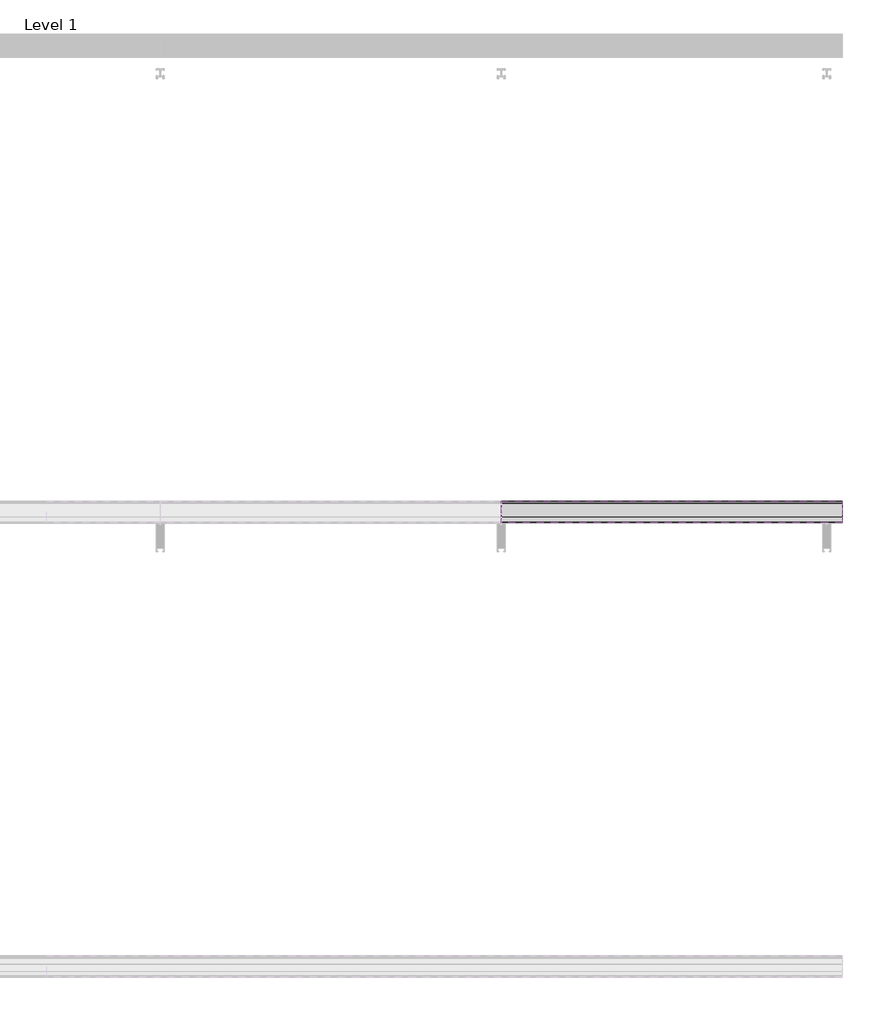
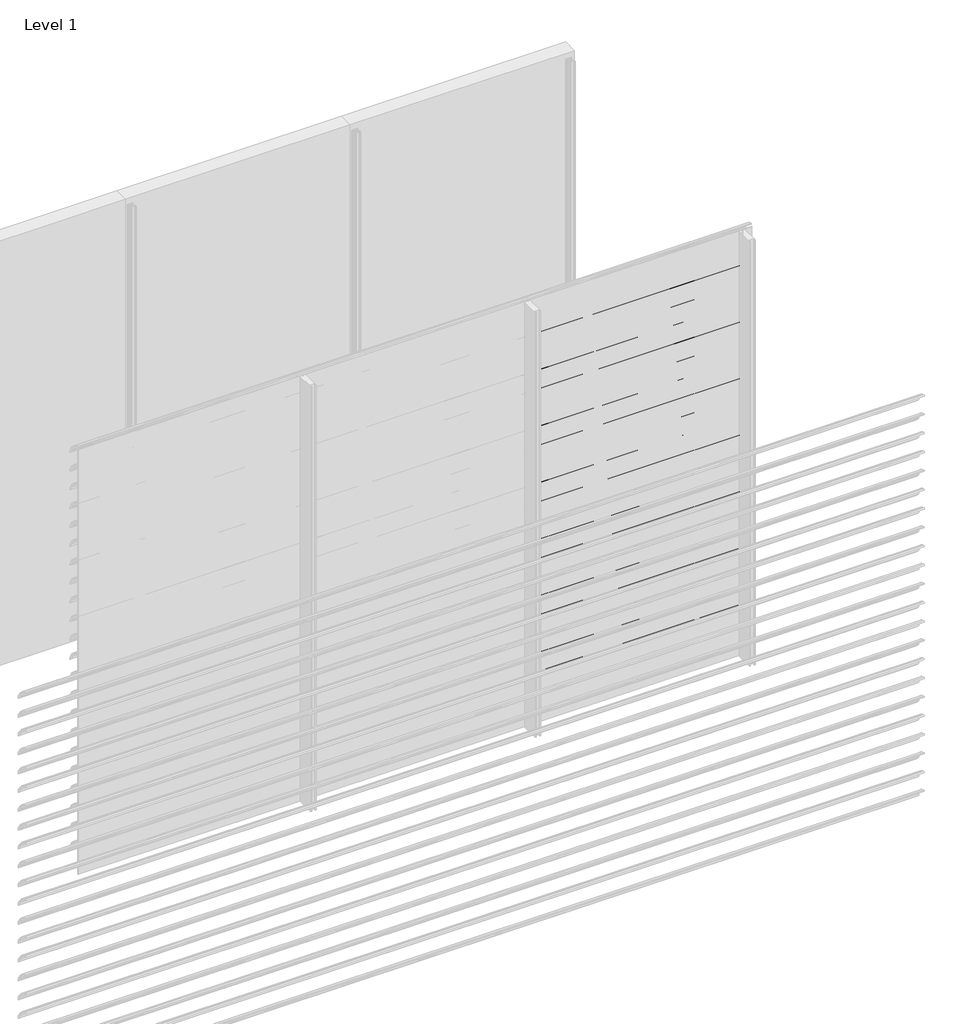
# One storey, part 13 of 57: 20 proxies.
"""IFC4 building model written with IfcOpenShell, lengths in millimetres."""

from ifc_helpers import new_model, si_unit, point, frame, frame_2d, origin, place, context, project, spatial, polyline, circle_curve, trimmed, segment, composite_curve, outline, extrude, element, save

model = new_model("IFC4")

# Units and contexts
model_context = context("Model", 3, world=origin())
ifc_project = project(units=[si_unit("LENGTHUNIT", "METRE", prefix="MILLI")], contexts=[model_context])

# Site, building, storey
site = spatial("IfcSite", under=ifc_project)
building = spatial("IfcBuilding", under=site)
storey = spatial("IfcBuildingStorey", under=building, Name="Level 1", Elevation=0.0)

# Proxies
placement = place(None, origin())
element("IfcBuildingElementProxy", 1, Name="Wall Sweeps", at=placement, inside=storey, context=model_context, shape_type="SweptSolid", body=[
    extrude(outline(composite_curve([segment(trimmed(circle_curve(frame_2d((-47993.7822526, 2750.4913792)), 4.2177474), [point((-47989.6985606, 2751.5462976))], [point((-47993.7822526, 2754.7091266))], False, "CARTESIAN"), True, "CONTINUOUS"), segment(trimmed(circle_curve(frame_2d((-48018.7150834, 2652.2536312)), 105.4456002), [point((-47993.7822526, 2754.7091266))], [point((-47971.7914298, 2746.6832099))], False, "CARTESIAN"), True, "CONTINUOUS"), segment(trimmed(circle_curve(frame_2d((-48061.7199745, 2598.0352476)), 173.7335887), [point((-47971.7914298, 2746.6832099))], [point((-47913.0720121, 2687.9637922))], False, "CARTESIAN"), True, "CONTINUOUS"), segment(trimmed(circle_curve(frame_2d((-48004.9297178, 2636.1860314)), 105.4456002), [point((-47913.0720121, 2687.9637922))], [point((-47903.6249616, 2665.4455765))], False, "CARTESIAN"), True, "CONTINUOUS"), segment(trimmed(circle_curve(frame_2d((-47907.809737, 2664.3307305)), 4.3307305), [point((-47903.6249616, 2665.4455765))], [point((-47909.0769196, 2660.189538))], False, "CARTESIAN"), True, "CONTINUOUS"), segment(polyline([(-47909.0769196, 2660.189538), (-47934.7401984, 2684.9722783)]), True, "CONTINUOUS"), segment(trimmed(circle_curve(frame_2d((-47931.3879574, 2687.2977626)), 4.079877), [point((-47934.7401984, 2684.9722783))], [point((-47930.7310597, 2691.3244091))], False, "CARTESIAN"), True, "CONTINUOUS"), segment(trimmed(circle_curve(frame_2d((-48014.6665585, 2669.2544323)), 86.7885467), [point((-47930.7310597, 2691.3244091))], [point((-47942.3028351, 2717.1683485))], True, "CARTESIAN"), True, "CONTINUOUS"), segment(polyline([(-47942.3028351, 2717.1683485), (-47940.7230099, 2719.9046861)]), True, "CONTINUOUS"), segment(trimmed(circle_curve(frame_2d((-48061.7199745, 2598.0352476)), 171.7335887), [point((-47940.7230099, 2719.9046861))], [point((-47972.7555872, 2744.9289618))], True, "CARTESIAN"), True, "CONTINUOUS"), segment(trimmed(circle_curve(frame_2d((-48018.7150834, 2652.2536312)), 103.4456002), [point((-47972.7555872, 2744.9289618))], [point((-47989.6985606, 2751.5462976))], True, "CARTESIAN"), True, "CONTINUOUS")], self_intersect=False)), frame((4500.0, 0.0, 0.0), z_axis=(1.0, 0.0, 0.0), x_axis=(0.0, 1.0, 0.0)), (0.0, 0.0, 1.0), 1500.0),
])
element("IfcBuildingElementProxy", 2, Name="Wall Sweeps", at=placement, inside=storey, context=model_context, shape_type="SweptSolid", body=[
    extrude(outline(composite_curve([segment(trimmed(circle_curve(frame_2d((-47993.7822526, 2617.4913792)), 4.2177474), [point((-47989.6985606, 2618.5462976))], [point((-47993.7822526, 2621.7091266))], False, "CARTESIAN"), True, "CONTINUOUS"), segment(trimmed(circle_curve(frame_2d((-48018.7150834, 2519.2536312)), 105.4456002), [point((-47993.7822526, 2621.7091266))], [point((-47971.7914298, 2613.6832099))], False, "CARTESIAN"), True, "CONTINUOUS"), segment(trimmed(circle_curve(frame_2d((-48061.7199745, 2465.0352476)), 173.7335887), [point((-47971.7914298, 2613.6832099))], [point((-47913.0720121, 2554.9637922))], False, "CARTESIAN"), True, "CONTINUOUS"), segment(trimmed(circle_curve(frame_2d((-48004.9297178, 2503.1860314)), 105.4456002), [point((-47913.0720121, 2554.9637922))], [point((-47903.6249616, 2532.4455765))], False, "CARTESIAN"), True, "CONTINUOUS"), segment(trimmed(circle_curve(frame_2d((-47907.809737, 2531.3307305)), 4.3307305), [point((-47903.6249616, 2532.4455765))], [point((-47909.0769196, 2527.189538))], False, "CARTESIAN"), True, "CONTINUOUS"), segment(polyline([(-47909.0769196, 2527.189538), (-47934.7401984, 2551.9722783)]), True, "CONTINUOUS"), segment(trimmed(circle_curve(frame_2d((-47931.3879574, 2554.2977626)), 4.079877), [point((-47934.7401984, 2551.9722783))], [point((-47930.7310597, 2558.3244091))], False, "CARTESIAN"), True, "CONTINUOUS"), segment(trimmed(circle_curve(frame_2d((-48014.6665585, 2536.2544323)), 86.7885467), [point((-47930.7310597, 2558.3244091))], [point((-47942.3028351, 2584.1683485))], True, "CARTESIAN"), True, "CONTINUOUS"), segment(polyline([(-47942.3028351, 2584.1683485), (-47940.7230099, 2586.9046861)]), True, "CONTINUOUS"), segment(trimmed(circle_curve(frame_2d((-48061.7199745, 2465.0352476)), 171.7335887), [point((-47940.7230099, 2586.9046861))], [point((-47972.7555872, 2611.9289618))], True, "CARTESIAN"), True, "CONTINUOUS"), segment(trimmed(circle_curve(frame_2d((-48018.7150834, 2519.2536312)), 103.4456002), [point((-47972.7555872, 2611.9289618))], [point((-47989.6985606, 2618.5462976))], True, "CARTESIAN"), True, "CONTINUOUS")], self_intersect=False)), frame((4500.0, 0.0, 0.0), z_axis=(1.0, 0.0, 0.0), x_axis=(0.0, 1.0, 0.0)), (0.0, 0.0, 1.0), 1500.0),
])
element("IfcBuildingElementProxy", 3, Name="Wall Sweeps", at=placement, inside=storey, context=model_context, shape_type="SweptSolid", body=[
    extrude(outline(composite_curve([segment(trimmed(circle_curve(frame_2d((-47993.7822526, 2484.4913792)), 4.2177474), [point((-47989.6985606, 2485.5462976))], [point((-47993.7822526, 2488.7091266))], False, "CARTESIAN"), True, "CONTINUOUS"), segment(trimmed(circle_curve(frame_2d((-48018.7150834, 2386.2536312)), 105.4456002), [point((-47993.7822526, 2488.7091266))], [point((-47971.7914298, 2480.6832099))], False, "CARTESIAN"), True, "CONTINUOUS"), segment(trimmed(circle_curve(frame_2d((-48061.7199745, 2332.0352476)), 173.7335887), [point((-47971.7914298, 2480.6832099))], [point((-47913.0720121, 2421.9637922))], False, "CARTESIAN"), True, "CONTINUOUS"), segment(trimmed(circle_curve(frame_2d((-48004.9297178, 2370.1860314)), 105.4456002), [point((-47913.0720121, 2421.9637922))], [point((-47903.6249616, 2399.4455765))], False, "CARTESIAN"), True, "CONTINUOUS"), segment(trimmed(circle_curve(frame_2d((-47907.809737, 2398.3307305)), 4.3307305), [point((-47903.6249616, 2399.4455765))], [point((-47909.0769196, 2394.189538))], False, "CARTESIAN"), True, "CONTINUOUS"), segment(polyline([(-47909.0769196, 2394.189538), (-47934.7401984, 2418.9722783)]), True, "CONTINUOUS"), segment(trimmed(circle_curve(frame_2d((-47931.3879574, 2421.2977626)), 4.079877), [point((-47934.7401984, 2418.9722783))], [point((-47930.7310597, 2425.3244091))], False, "CARTESIAN"), True, "CONTINUOUS"), segment(trimmed(circle_curve(frame_2d((-48014.6665585, 2403.2544323)), 86.7885467), [point((-47930.7310597, 2425.3244091))], [point((-47942.3028351, 2451.1683485))], True, "CARTESIAN"), True, "CONTINUOUS"), segment(polyline([(-47942.3028351, 2451.1683485), (-47940.7230099, 2453.9046861)]), True, "CONTINUOUS"), segment(trimmed(circle_curve(frame_2d((-48061.7199745, 2332.0352476)), 171.7335887), [point((-47940.7230099, 2453.9046861))], [point((-47972.7555872, 2478.9289618))], True, "CARTESIAN"), True, "CONTINUOUS"), segment(trimmed(circle_curve(frame_2d((-48018.7150834, 2386.2536312)), 103.4456002), [point((-47972.7555872, 2478.9289618))], [point((-47989.6985606, 2485.5462976))], True, "CARTESIAN"), True, "CONTINUOUS")], self_intersect=False)), frame((4500.0, 0.0, 0.0), z_axis=(1.0, 0.0, 0.0), x_axis=(0.0, 1.0, 0.0)), (0.0, 0.0, 1.0), 1500.0),
])
element("IfcBuildingElementProxy", 4, Name="Wall Sweeps", at=placement, inside=storey, context=model_context, shape_type="SweptSolid", body=[
    extrude(outline(composite_curve([segment(trimmed(circle_curve(frame_2d((-47993.7822526, 2351.4913792)), 4.2177474), [point((-47989.6985606, 2352.5462976))], [point((-47993.7822526, 2355.7091266))], False, "CARTESIAN"), True, "CONTINUOUS"), segment(trimmed(circle_curve(frame_2d((-48018.7150834, 2253.2536312)), 105.4456002), [point((-47993.7822526, 2355.7091266))], [point((-47971.7914298, 2347.6832099))], False, "CARTESIAN"), True, "CONTINUOUS"), segment(trimmed(circle_curve(frame_2d((-48061.7199745, 2199.0352476)), 173.7335887), [point((-47971.7914298, 2347.6832099))], [point((-47913.0720121, 2288.9637922))], False, "CARTESIAN"), True, "CONTINUOUS"), segment(trimmed(circle_curve(frame_2d((-48004.9297178, 2237.1860314)), 105.4456002), [point((-47913.0720121, 2288.9637922))], [point((-47903.6249616, 2266.4455765))], False, "CARTESIAN"), True, "CONTINUOUS"), segment(trimmed(circle_curve(frame_2d((-47907.809737, 2265.3307305)), 4.3307305), [point((-47903.6249616, 2266.4455765))], [point((-47909.0769196, 2261.189538))], False, "CARTESIAN"), True, "CONTINUOUS"), segment(polyline([(-47909.0769196, 2261.189538), (-47934.7401984, 2285.9722783)]), True, "CONTINUOUS"), segment(trimmed(circle_curve(frame_2d((-47931.3879574, 2288.2977626)), 4.079877), [point((-47934.7401984, 2285.9722783))], [point((-47930.7310597, 2292.3244091))], False, "CARTESIAN"), True, "CONTINUOUS"), segment(trimmed(circle_curve(frame_2d((-48014.6665585, 2270.2544323)), 86.7885467), [point((-47930.7310597, 2292.3244091))], [point((-47942.3028351, 2318.1683485))], True, "CARTESIAN"), True, "CONTINUOUS"), segment(polyline([(-47942.3028351, 2318.1683485), (-47940.7230099, 2320.9046861)]), True, "CONTINUOUS"), segment(trimmed(circle_curve(frame_2d((-48061.7199745, 2199.0352476)), 171.7335887), [point((-47940.7230099, 2320.9046861))], [point((-47972.7555872, 2345.9289618))], True, "CARTESIAN"), True, "CONTINUOUS"), segment(trimmed(circle_curve(frame_2d((-48018.7150834, 2253.2536312)), 103.4456002), [point((-47972.7555872, 2345.9289618))], [point((-47989.6985606, 2352.5462976))], True, "CARTESIAN"), True, "CONTINUOUS")], self_intersect=False)), frame((4500.0, 0.0, 0.0), z_axis=(1.0, 0.0, 0.0), x_axis=(0.0, 1.0, 0.0)), (0.0, 0.0, 1.0), 1500.0),
])
element("IfcBuildingElementProxy", 5, Name="Wall Sweeps", at=placement, inside=storey, context=model_context, shape_type="SweptSolid", body=[
    extrude(outline(composite_curve([segment(trimmed(circle_curve(frame_2d((-47993.7822526, 2218.4913792)), 4.2177474), [point((-47989.6985606, 2219.5462976))], [point((-47993.7822526, 2222.7091266))], False, "CARTESIAN"), True, "CONTINUOUS"), segment(trimmed(circle_curve(frame_2d((-48018.7150834, 2120.2536312)), 105.4456002), [point((-47993.7822526, 2222.7091266))], [point((-47971.7914298, 2214.6832099))], False, "CARTESIAN"), True, "CONTINUOUS"), segment(trimmed(circle_curve(frame_2d((-48061.7199745, 2066.0352476)), 173.7335887), [point((-47971.7914298, 2214.6832099))], [point((-47913.0720121, 2155.9637922))], False, "CARTESIAN"), True, "CONTINUOUS"), segment(trimmed(circle_curve(frame_2d((-48004.9297178, 2104.1860314)), 105.4456002), [point((-47913.0720121, 2155.9637922))], [point((-47903.6249616, 2133.4455765))], False, "CARTESIAN"), True, "CONTINUOUS"), segment(trimmed(circle_curve(frame_2d((-47907.809737, 2132.3307305)), 4.3307305), [point((-47903.6249616, 2133.4455765))], [point((-47909.0769196, 2128.189538))], False, "CARTESIAN"), True, "CONTINUOUS"), segment(polyline([(-47909.0769196, 2128.189538), (-47934.7401984, 2152.9722783)]), True, "CONTINUOUS"), segment(trimmed(circle_curve(frame_2d((-47931.3879574, 2155.2977626)), 4.079877), [point((-47934.7401984, 2152.9722783))], [point((-47930.7310597, 2159.3244091))], False, "CARTESIAN"), True, "CONTINUOUS"), segment(trimmed(circle_curve(frame_2d((-48014.6665585, 2137.2544323)), 86.7885467), [point((-47930.7310597, 2159.3244091))], [point((-47942.3028351, 2185.1683485))], True, "CARTESIAN"), True, "CONTINUOUS"), segment(polyline([(-47942.3028351, 2185.1683485), (-47940.7230099, 2187.9046861)]), True, "CONTINUOUS"), segment(trimmed(circle_curve(frame_2d((-48061.7199745, 2066.0352476)), 171.7335887), [point((-47940.7230099, 2187.9046861))], [point((-47972.7555872, 2212.9289618))], True, "CARTESIAN"), True, "CONTINUOUS"), segment(trimmed(circle_curve(frame_2d((-48018.7150834, 2120.2536312)), 103.4456002), [point((-47972.7555872, 2212.9289618))], [point((-47989.6985606, 2219.5462976))], True, "CARTESIAN"), True, "CONTINUOUS")], self_intersect=False)), frame((4500.0, 0.0, 0.0), z_axis=(1.0, 0.0, 0.0), x_axis=(0.0, 1.0, 0.0)), (0.0, 0.0, 1.0), 1500.0),
])
element("IfcBuildingElementProxy", 6, Name="Wall Sweeps", at=placement, inside=storey, context=model_context, shape_type="SweptSolid", body=[
    extrude(outline(composite_curve([segment(trimmed(circle_curve(frame_2d((-47993.7822526, 2085.4913792)), 4.2177474), [point((-47989.6985606, 2086.5462976))], [point((-47993.7822526, 2089.7091266))], False, "CARTESIAN"), True, "CONTINUOUS"), segment(trimmed(circle_curve(frame_2d((-48018.7150834, 1987.2536312)), 105.4456002), [point((-47993.7822526, 2089.7091266))], [point((-47971.7914298, 2081.6832099))], False, "CARTESIAN"), True, "CONTINUOUS"), segment(trimmed(circle_curve(frame_2d((-48061.7199745, 1933.0352476)), 173.7335887), [point((-47971.7914298, 2081.6832099))], [point((-47913.0720121, 2022.9637922))], False, "CARTESIAN"), True, "CONTINUOUS"), segment(trimmed(circle_curve(frame_2d((-48004.9297178, 1971.1860314)), 105.4456002), [point((-47913.0720121, 2022.9637922))], [point((-47903.6249616, 2000.4455765))], False, "CARTESIAN"), True, "CONTINUOUS"), segment(trimmed(circle_curve(frame_2d((-47907.809737, 1999.3307305)), 4.3307305), [point((-47903.6249616, 2000.4455765))], [point((-47909.0769196, 1995.189538))], False, "CARTESIAN"), True, "CONTINUOUS"), segment(polyline([(-47909.0769196, 1995.189538), (-47934.7401984, 2019.9722783)]), True, "CONTINUOUS"), segment(trimmed(circle_curve(frame_2d((-47931.3879574, 2022.2977626)), 4.079877), [point((-47934.7401984, 2019.9722783))], [point((-47930.7310597, 2026.3244091))], False, "CARTESIAN"), True, "CONTINUOUS"), segment(trimmed(circle_curve(frame_2d((-48014.6665585, 2004.2544323)), 86.7885467), [point((-47930.7310597, 2026.3244091))], [point((-47942.3028351, 2052.1683485))], True, "CARTESIAN"), True, "CONTINUOUS"), segment(polyline([(-47942.3028351, 2052.1683485), (-47940.7230099, 2054.9046861)]), True, "CONTINUOUS"), segment(trimmed(circle_curve(frame_2d((-48061.7199745, 1933.0352476)), 171.7335887), [point((-47940.7230099, 2054.9046861))], [point((-47972.7555872, 2079.9289618))], True, "CARTESIAN"), True, "CONTINUOUS"), segment(trimmed(circle_curve(frame_2d((-48018.7150834, 1987.2536312)), 103.4456002), [point((-47972.7555872, 2079.9289618))], [point((-47989.6985606, 2086.5462976))], True, "CARTESIAN"), True, "CONTINUOUS")], self_intersect=False)), frame((4500.0, 0.0, 0.0), z_axis=(1.0, 0.0, 0.0), x_axis=(0.0, 1.0, 0.0)), (0.0, 0.0, 1.0), 1500.0),
])
element("IfcBuildingElementProxy", 7, Name="Wall Sweeps", at=placement, inside=storey, context=model_context, shape_type="SweptSolid", body=[
    extrude(outline(composite_curve([segment(trimmed(circle_curve(frame_2d((-47993.7822526, 1952.4913792)), 4.2177474), [point((-47989.6985606, 1953.5462976))], [point((-47993.7822526, 1956.7091266))], False, "CARTESIAN"), True, "CONTINUOUS"), segment(trimmed(circle_curve(frame_2d((-48018.7150834, 1854.2536312)), 105.4456002), [point((-47993.7822526, 1956.7091266))], [point((-47971.7914298, 1948.6832099))], False, "CARTESIAN"), True, "CONTINUOUS"), segment(trimmed(circle_curve(frame_2d((-48061.7199745, 1800.0352476)), 173.7335887), [point((-47971.7914298, 1948.6832099))], [point((-47913.0720121, 1889.9637922))], False, "CARTESIAN"), True, "CONTINUOUS"), segment(trimmed(circle_curve(frame_2d((-48004.9297178, 1838.1860314)), 105.4456002), [point((-47913.0720121, 1889.9637922))], [point((-47903.6249616, 1867.4455765))], False, "CARTESIAN"), True, "CONTINUOUS"), segment(trimmed(circle_curve(frame_2d((-47907.809737, 1866.3307305)), 4.3307305), [point((-47903.6249616, 1867.4455765))], [point((-47909.0769196, 1862.189538))], False, "CARTESIAN"), True, "CONTINUOUS"), segment(polyline([(-47909.0769196, 1862.189538), (-47934.7401984, 1886.9722783)]), True, "CONTINUOUS"), segment(trimmed(circle_curve(frame_2d((-47931.3879574, 1889.2977626)), 4.079877), [point((-47934.7401984, 1886.9722783))], [point((-47930.7310597, 1893.3244091))], False, "CARTESIAN"), True, "CONTINUOUS"), segment(trimmed(circle_curve(frame_2d((-48014.6665585, 1871.2544323)), 86.7885467), [point((-47930.7310597, 1893.3244091))], [point((-47942.3028351, 1919.1683485))], True, "CARTESIAN"), True, "CONTINUOUS"), segment(polyline([(-47942.3028351, 1919.1683485), (-47940.7230099, 1921.9046861)]), True, "CONTINUOUS"), segment(trimmed(circle_curve(frame_2d((-48061.7199745, 1800.0352476)), 171.7335887), [point((-47940.7230099, 1921.9046861))], [point((-47972.7555872, 1946.9289618))], True, "CARTESIAN"), True, "CONTINUOUS"), segment(trimmed(circle_curve(frame_2d((-48018.7150834, 1854.2536312)), 103.4456002), [point((-47972.7555872, 1946.9289618))], [point((-47989.6985606, 1953.5462976))], True, "CARTESIAN"), True, "CONTINUOUS")], self_intersect=False)), frame((4500.0, 0.0, 0.0), z_axis=(1.0, 0.0, 0.0), x_axis=(0.0, 1.0, 0.0)), (0.0, 0.0, 1.0), 1500.0),
])
element("IfcBuildingElementProxy", 8, Name="Wall Sweeps", at=placement, inside=storey, context=model_context, shape_type="SweptSolid", body=[
    extrude(outline(composite_curve([segment(trimmed(circle_curve(frame_2d((-47993.7822526, 1819.4913792)), 4.2177474), [point((-47989.6985606, 1820.5462976))], [point((-47993.7822526, 1823.7091266))], False, "CARTESIAN"), True, "CONTINUOUS"), segment(trimmed(circle_curve(frame_2d((-48018.7150834, 1721.2536312)), 105.4456002), [point((-47993.7822526, 1823.7091266))], [point((-47971.7914298, 1815.6832099))], False, "CARTESIAN"), True, "CONTINUOUS"), segment(trimmed(circle_curve(frame_2d((-48061.7199745, 1667.0352476)), 173.7335887), [point((-47971.7914298, 1815.6832099))], [point((-47913.0720121, 1756.9637922))], False, "CARTESIAN"), True, "CONTINUOUS"), segment(trimmed(circle_curve(frame_2d((-48004.9297178, 1705.1860314)), 105.4456002), [point((-47913.0720121, 1756.9637922))], [point((-47903.6249616, 1734.4455765))], False, "CARTESIAN"), True, "CONTINUOUS"), segment(trimmed(circle_curve(frame_2d((-47907.809737, 1733.3307305)), 4.3307305), [point((-47903.6249616, 1734.4455765))], [point((-47909.0769196, 1729.189538))], False, "CARTESIAN"), True, "CONTINUOUS"), segment(polyline([(-47909.0769196, 1729.189538), (-47934.7401984, 1753.9722783)]), True, "CONTINUOUS"), segment(trimmed(circle_curve(frame_2d((-47931.3879574, 1756.2977626)), 4.079877), [point((-47934.7401984, 1753.9722783))], [point((-47930.7310597, 1760.3244091))], False, "CARTESIAN"), True, "CONTINUOUS"), segment(trimmed(circle_curve(frame_2d((-48014.6665585, 1738.2544323)), 86.7885467), [point((-47930.7310597, 1760.3244091))], [point((-47942.3028351, 1786.1683485))], True, "CARTESIAN"), True, "CONTINUOUS"), segment(polyline([(-47942.3028351, 1786.1683485), (-47940.7230099, 1788.9046861)]), True, "CONTINUOUS"), segment(trimmed(circle_curve(frame_2d((-48061.7199745, 1667.0352476)), 171.7335887), [point((-47940.7230099, 1788.9046861))], [point((-47972.7555872, 1813.9289618))], True, "CARTESIAN"), True, "CONTINUOUS"), segment(trimmed(circle_curve(frame_2d((-48018.7150834, 1721.2536312)), 103.4456002), [point((-47972.7555872, 1813.9289618))], [point((-47989.6985606, 1820.5462976))], True, "CARTESIAN"), True, "CONTINUOUS")], self_intersect=False)), frame((4500.0, 0.0, 0.0), z_axis=(1.0, 0.0, 0.0), x_axis=(0.0, 1.0, 0.0)), (0.0, 0.0, 1.0), 1500.0),
])
element("IfcBuildingElementProxy", 9, Name="Wall Sweeps", at=placement, inside=storey, context=model_context, shape_type="SweptSolid", body=[
    extrude(outline(composite_curve([segment(trimmed(circle_curve(frame_2d((-47993.7822526, 1686.4913792)), 4.2177474), [point((-47989.6985606, 1687.5462976))], [point((-47993.7822526, 1690.7091266))], False, "CARTESIAN"), True, "CONTINUOUS"), segment(trimmed(circle_curve(frame_2d((-48018.7150834, 1588.2536312)), 105.4456002), [point((-47993.7822526, 1690.7091266))], [point((-47971.7914298, 1682.6832099))], False, "CARTESIAN"), True, "CONTINUOUS"), segment(trimmed(circle_curve(frame_2d((-48061.7199745, 1534.0352476)), 173.7335887), [point((-47971.7914298, 1682.6832099))], [point((-47913.0720121, 1623.9637922))], False, "CARTESIAN"), True, "CONTINUOUS"), segment(trimmed(circle_curve(frame_2d((-48004.9297178, 1572.1860314)), 105.4456002), [point((-47913.0720121, 1623.9637922))], [point((-47903.6249616, 1601.4455765))], False, "CARTESIAN"), True, "CONTINUOUS"), segment(trimmed(circle_curve(frame_2d((-47907.809737, 1600.3307305)), 4.3307305), [point((-47903.6249616, 1601.4455765))], [point((-47909.0769196, 1596.189538))], False, "CARTESIAN"), True, "CONTINUOUS"), segment(polyline([(-47909.0769196, 1596.189538), (-47934.7401984, 1620.9722783)]), True, "CONTINUOUS"), segment(trimmed(circle_curve(frame_2d((-47931.3879574, 1623.2977626)), 4.079877), [point((-47934.7401984, 1620.9722783))], [point((-47930.7310597, 1627.3244091))], False, "CARTESIAN"), True, "CONTINUOUS"), segment(trimmed(circle_curve(frame_2d((-48014.6665585, 1605.2544323)), 86.7885467), [point((-47930.7310597, 1627.3244091))], [point((-47942.3028351, 1653.1683485))], True, "CARTESIAN"), True, "CONTINUOUS"), segment(polyline([(-47942.3028351, 1653.1683485), (-47940.7230099, 1655.9046861)]), True, "CONTINUOUS"), segment(trimmed(circle_curve(frame_2d((-48061.7199745, 1534.0352476)), 171.7335887), [point((-47940.7230099, 1655.9046861))], [point((-47972.7555872, 1680.9289618))], True, "CARTESIAN"), True, "CONTINUOUS"), segment(trimmed(circle_curve(frame_2d((-48018.7150834, 1588.2536312)), 103.4456002), [point((-47972.7555872, 1680.9289618))], [point((-47989.6985606, 1687.5462976))], True, "CARTESIAN"), True, "CONTINUOUS")], self_intersect=False)), frame((4500.0, 0.0, 0.0), z_axis=(1.0, 0.0, 0.0), x_axis=(0.0, 1.0, 0.0)), (0.0, 0.0, 1.0), 1500.0),
])
element("IfcBuildingElementProxy", 10, Name="Wall Sweeps", at=placement, inside=storey, context=model_context, shape_type="SweptSolid", body=[
    extrude(outline(composite_curve([segment(trimmed(circle_curve(frame_2d((-47993.7822526, 1553.4913792)), 4.2177474), [point((-47989.6985606, 1554.5462976))], [point((-47993.7822526, 1557.7091266))], False, "CARTESIAN"), True, "CONTINUOUS"), segment(trimmed(circle_curve(frame_2d((-48018.7150834, 1455.2536312)), 105.4456002), [point((-47993.7822526, 1557.7091266))], [point((-47971.7914298, 1549.6832099))], False, "CARTESIAN"), True, "CONTINUOUS"), segment(trimmed(circle_curve(frame_2d((-48061.7199745, 1401.0352476)), 173.7335887), [point((-47971.7914298, 1549.6832099))], [point((-47913.0720121, 1490.9637922))], False, "CARTESIAN"), True, "CONTINUOUS"), segment(trimmed(circle_curve(frame_2d((-48004.9297178, 1439.1860314)), 105.4456002), [point((-47913.0720121, 1490.9637922))], [point((-47903.6249616, 1468.4455765))], False, "CARTESIAN"), True, "CONTINUOUS"), segment(trimmed(circle_curve(frame_2d((-47907.809737, 1467.3307305)), 4.3307305), [point((-47903.6249616, 1468.4455765))], [point((-47909.0769196, 1463.189538))], False, "CARTESIAN"), True, "CONTINUOUS"), segment(polyline([(-47909.0769196, 1463.189538), (-47934.7401984, 1487.9722783)]), True, "CONTINUOUS"), segment(trimmed(circle_curve(frame_2d((-47931.3879574, 1490.2977626)), 4.079877), [point((-47934.7401984, 1487.9722783))], [point((-47930.7310597, 1494.3244091))], False, "CARTESIAN"), True, "CONTINUOUS"), segment(trimmed(circle_curve(frame_2d((-48014.6665585, 1472.2544323)), 86.7885467), [point((-47930.7310597, 1494.3244091))], [point((-47942.3028351, 1520.1683485))], True, "CARTESIAN"), True, "CONTINUOUS"), segment(polyline([(-47942.3028351, 1520.1683485), (-47940.7230099, 1522.9046861)]), True, "CONTINUOUS"), segment(trimmed(circle_curve(frame_2d((-48061.7199745, 1401.0352476)), 171.7335887), [point((-47940.7230099, 1522.9046861))], [point((-47972.7555872, 1547.9289618))], True, "CARTESIAN"), True, "CONTINUOUS"), segment(trimmed(circle_curve(frame_2d((-48018.7150834, 1455.2536312)), 103.4456002), [point((-47972.7555872, 1547.9289618))], [point((-47989.6985606, 1554.5462976))], True, "CARTESIAN"), True, "CONTINUOUS")], self_intersect=False)), frame((4500.0, 0.0, 0.0), z_axis=(1.0, 0.0, 0.0), x_axis=(0.0, 1.0, 0.0)), (0.0, 0.0, 1.0), 1500.0),
])
element("IfcBuildingElementProxy", 11, Name="Wall Sweeps", at=placement, inside=storey, context=model_context, shape_type="SweptSolid", body=[
    extrude(outline(composite_curve([segment(trimmed(circle_curve(frame_2d((-47993.7822526, 1420.4913792)), 4.2177474), [point((-47989.6985606, 1421.5462976))], [point((-47993.7822526, 1424.7091266))], False, "CARTESIAN"), True, "CONTINUOUS"), segment(trimmed(circle_curve(frame_2d((-48018.7150834, 1322.2536312)), 105.4456002), [point((-47993.7822526, 1424.7091266))], [point((-47971.7914298, 1416.6832099))], False, "CARTESIAN"), True, "CONTINUOUS"), segment(trimmed(circle_curve(frame_2d((-48061.7199745, 1268.0352476)), 173.7335887), [point((-47971.7914298, 1416.6832099))], [point((-47913.0720121, 1357.9637922))], False, "CARTESIAN"), True, "CONTINUOUS"), segment(trimmed(circle_curve(frame_2d((-48004.9297178, 1306.1860314)), 105.4456002), [point((-47913.0720121, 1357.9637922))], [point((-47903.6249616, 1335.4455765))], False, "CARTESIAN"), True, "CONTINUOUS"), segment(trimmed(circle_curve(frame_2d((-47907.809737, 1334.3307305)), 4.3307305), [point((-47903.6249616, 1335.4455765))], [point((-47909.0769196, 1330.189538))], False, "CARTESIAN"), True, "CONTINUOUS"), segment(polyline([(-47909.0769196, 1330.189538), (-47934.7401984, 1354.9722783)]), True, "CONTINUOUS"), segment(trimmed(circle_curve(frame_2d((-47931.3879574, 1357.2977626)), 4.079877), [point((-47934.7401984, 1354.9722783))], [point((-47930.7310597, 1361.3244091))], False, "CARTESIAN"), True, "CONTINUOUS"), segment(trimmed(circle_curve(frame_2d((-48014.6665585, 1339.2544323)), 86.7885467), [point((-47930.7310597, 1361.3244091))], [point((-47942.3028351, 1387.1683485))], True, "CARTESIAN"), True, "CONTINUOUS"), segment(polyline([(-47942.3028351, 1387.1683485), (-47940.7230099, 1389.9046861)]), True, "CONTINUOUS"), segment(trimmed(circle_curve(frame_2d((-48061.7199745, 1268.0352476)), 171.7335887), [point((-47940.7230099, 1389.9046861))], [point((-47972.7555872, 1414.9289618))], True, "CARTESIAN"), True, "CONTINUOUS"), segment(trimmed(circle_curve(frame_2d((-48018.7150834, 1322.2536312)), 103.4456002), [point((-47972.7555872, 1414.9289618))], [point((-47989.6985606, 1421.5462976))], True, "CARTESIAN"), True, "CONTINUOUS")], self_intersect=False)), frame((4500.0, 0.0, 0.0), z_axis=(1.0, 0.0, 0.0), x_axis=(0.0, 1.0, 0.0)), (0.0, 0.0, 1.0), 1500.0),
])
element("IfcBuildingElementProxy", 12, Name="Wall Sweeps", at=placement, inside=storey, context=model_context, shape_type="SweptSolid", body=[
    extrude(outline(composite_curve([segment(trimmed(circle_curve(frame_2d((-47993.7822526, 1287.4913792)), 4.2177474), [point((-47989.6985606, 1288.5462976))], [point((-47993.7822526, 1291.7091266))], False, "CARTESIAN"), True, "CONTINUOUS"), segment(trimmed(circle_curve(frame_2d((-48018.7150834, 1189.2536312)), 105.4456002), [point((-47993.7822526, 1291.7091266))], [point((-47971.7914298, 1283.6832099))], False, "CARTESIAN"), True, "CONTINUOUS"), segment(trimmed(circle_curve(frame_2d((-48061.7199745, 1135.0352476)), 173.7335887), [point((-47971.7914298, 1283.6832099))], [point((-47913.0720121, 1224.9637922))], False, "CARTESIAN"), True, "CONTINUOUS"), segment(trimmed(circle_curve(frame_2d((-48004.9297178, 1173.1860314)), 105.4456002), [point((-47913.0720121, 1224.9637922))], [point((-47903.6249616, 1202.4455765))], False, "CARTESIAN"), True, "CONTINUOUS"), segment(trimmed(circle_curve(frame_2d((-47907.809737, 1201.3307305)), 4.3307305), [point((-47903.6249616, 1202.4455765))], [point((-47909.0769196, 1197.189538))], False, "CARTESIAN"), True, "CONTINUOUS"), segment(polyline([(-47909.0769196, 1197.189538), (-47934.7401984, 1221.9722783)]), True, "CONTINUOUS"), segment(trimmed(circle_curve(frame_2d((-47931.3879574, 1224.2977626)), 4.079877), [point((-47934.7401984, 1221.9722783))], [point((-47930.7310597, 1228.3244091))], False, "CARTESIAN"), True, "CONTINUOUS"), segment(trimmed(circle_curve(frame_2d((-48014.6665585, 1206.2544323)), 86.7885467), [point((-47930.7310597, 1228.3244091))], [point((-47942.3028351, 1254.1683485))], True, "CARTESIAN"), True, "CONTINUOUS"), segment(polyline([(-47942.3028351, 1254.1683485), (-47940.7230099, 1256.9046861)]), True, "CONTINUOUS"), segment(trimmed(circle_curve(frame_2d((-48061.7199745, 1135.0352476)), 171.7335887), [point((-47940.7230099, 1256.9046861))], [point((-47972.7555872, 1281.9289618))], True, "CARTESIAN"), True, "CONTINUOUS"), segment(trimmed(circle_curve(frame_2d((-48018.7150834, 1189.2536312)), 103.4456002), [point((-47972.7555872, 1281.9289618))], [point((-47989.6985606, 1288.5462976))], True, "CARTESIAN"), True, "CONTINUOUS")], self_intersect=False)), frame((4500.0, 0.0, 0.0), z_axis=(1.0, 0.0, 0.0), x_axis=(0.0, 1.0, 0.0)), (0.0, 0.0, 1.0), 1500.0),
])
element("IfcBuildingElementProxy", 13, Name="Wall Sweeps", at=placement, inside=storey, context=model_context, shape_type="SweptSolid", body=[
    extrude(outline(composite_curve([segment(trimmed(circle_curve(frame_2d((-47993.7822526, 1154.4913792)), 4.2177474), [point((-47989.6985606, 1155.5462976))], [point((-47993.7822526, 1158.7091266))], False, "CARTESIAN"), True, "CONTINUOUS"), segment(trimmed(circle_curve(frame_2d((-48018.7150834, 1056.2536312)), 105.4456002), [point((-47993.7822526, 1158.7091266))], [point((-47971.7914298, 1150.6832099))], False, "CARTESIAN"), True, "CONTINUOUS"), segment(trimmed(circle_curve(frame_2d((-48061.7199745, 1002.0352476)), 173.7335887), [point((-47971.7914298, 1150.6832099))], [point((-47913.0720121, 1091.9637922))], False, "CARTESIAN"), True, "CONTINUOUS"), segment(trimmed(circle_curve(frame_2d((-48004.9297178, 1040.1860314)), 105.4456002), [point((-47913.0720121, 1091.9637922))], [point((-47903.6249616, 1069.4455765))], False, "CARTESIAN"), True, "CONTINUOUS"), segment(trimmed(circle_curve(frame_2d((-47907.809737, 1068.3307305)), 4.3307305), [point((-47903.6249616, 1069.4455765))], [point((-47909.0769196, 1064.189538))], False, "CARTESIAN"), True, "CONTINUOUS"), segment(polyline([(-47909.0769196, 1064.189538), (-47934.7401984, 1088.9722783)]), True, "CONTINUOUS"), segment(trimmed(circle_curve(frame_2d((-47931.3879574, 1091.2977626)), 4.079877), [point((-47934.7401984, 1088.9722783))], [point((-47930.7310597, 1095.3244091))], False, "CARTESIAN"), True, "CONTINUOUS"), segment(trimmed(circle_curve(frame_2d((-48014.6665585, 1073.2544323)), 86.7885467), [point((-47930.7310597, 1095.3244091))], [point((-47942.3028351, 1121.1683485))], True, "CARTESIAN"), True, "CONTINUOUS"), segment(polyline([(-47942.3028351, 1121.1683485), (-47940.7230099, 1123.9046861)]), True, "CONTINUOUS"), segment(trimmed(circle_curve(frame_2d((-48061.7199745, 1002.0352476)), 171.7335887), [point((-47940.7230099, 1123.9046861))], [point((-47972.7555872, 1148.9289618))], True, "CARTESIAN"), True, "CONTINUOUS"), segment(trimmed(circle_curve(frame_2d((-48018.7150834, 1056.2536312)), 103.4456002), [point((-47972.7555872, 1148.9289618))], [point((-47989.6985606, 1155.5462976))], True, "CARTESIAN"), True, "CONTINUOUS")], self_intersect=False)), frame((4500.0, 0.0, 0.0), z_axis=(1.0, 0.0, 0.0), x_axis=(0.0, 1.0, 0.0)), (0.0, 0.0, 1.0), 1500.0),
])
element("IfcBuildingElementProxy", 14, Name="Wall Sweeps", at=placement, inside=storey, context=model_context, shape_type="SweptSolid", body=[
    extrude(outline(composite_curve([segment(trimmed(circle_curve(frame_2d((-47993.7822526, 1021.4913792)), 4.2177474), [point((-47989.6985606, 1022.5462976))], [point((-47993.7822526, 1025.7091266))], False, "CARTESIAN"), True, "CONTINUOUS"), segment(trimmed(circle_curve(frame_2d((-48018.7150834, 923.2536312)), 105.4456002), [point((-47993.7822526, 1025.7091266))], [point((-47971.7914298, 1017.6832099))], False, "CARTESIAN"), True, "CONTINUOUS"), segment(trimmed(circle_curve(frame_2d((-48061.7199745, 869.0352476)), 173.7335887), [point((-47971.7914298, 1017.6832099))], [point((-47913.0720121, 958.9637922))], False, "CARTESIAN"), True, "CONTINUOUS"), segment(trimmed(circle_curve(frame_2d((-48004.9297178, 907.1860314)), 105.4456002), [point((-47913.0720121, 958.9637922))], [point((-47903.6249616, 936.4455765))], False, "CARTESIAN"), True, "CONTINUOUS"), segment(trimmed(circle_curve(frame_2d((-47907.809737, 935.3307305)), 4.3307305), [point((-47903.6249616, 936.4455765))], [point((-47909.0769196, 931.189538))], False, "CARTESIAN"), True, "CONTINUOUS"), segment(polyline([(-47909.0769196, 931.189538), (-47934.7401984, 955.9722783)]), True, "CONTINUOUS"), segment(trimmed(circle_curve(frame_2d((-47931.3879574, 958.2977626)), 4.079877), [point((-47934.7401984, 955.9722783))], [point((-47930.7310597, 962.3244091))], False, "CARTESIAN"), True, "CONTINUOUS"), segment(trimmed(circle_curve(frame_2d((-48014.6665585, 940.2544323)), 86.7885467), [point((-47930.7310597, 962.3244091))], [point((-47942.3028351, 988.1683485))], True, "CARTESIAN"), True, "CONTINUOUS"), segment(polyline([(-47942.3028351, 988.1683485), (-47940.7230099, 990.9046861)]), True, "CONTINUOUS"), segment(trimmed(circle_curve(frame_2d((-48061.7199745, 869.0352476)), 171.7335887), [point((-47940.7230099, 990.9046861))], [point((-47972.7555872, 1015.9289618))], True, "CARTESIAN"), True, "CONTINUOUS"), segment(trimmed(circle_curve(frame_2d((-48018.7150834, 923.2536312)), 103.4456002), [point((-47972.7555872, 1015.9289618))], [point((-47989.6985606, 1022.5462976))], True, "CARTESIAN"), True, "CONTINUOUS")], self_intersect=False)), frame((4500.0, 0.0, 0.0), z_axis=(1.0, 0.0, 0.0), x_axis=(0.0, 1.0, 0.0)), (0.0, 0.0, 1.0), 1500.0),
])
element("IfcBuildingElementProxy", 15, Name="Wall Sweeps", at=placement, inside=storey, context=model_context, shape_type="SweptSolid", body=[
    extrude(outline(composite_curve([segment(trimmed(circle_curve(frame_2d((-47993.7822526, 888.4913792)), 4.2177474), [point((-47989.6985606, 889.5462976))], [point((-47993.7822526, 892.7091266))], False, "CARTESIAN"), True, "CONTINUOUS"), segment(trimmed(circle_curve(frame_2d((-48018.7150834, 790.2536312)), 105.4456002), [point((-47993.7822526, 892.7091266))], [point((-47971.7914298, 884.6832099))], False, "CARTESIAN"), True, "CONTINUOUS"), segment(trimmed(circle_curve(frame_2d((-48061.7199745, 736.0352476)), 173.7335887), [point((-47971.7914298, 884.6832099))], [point((-47913.0720121, 825.9637922))], False, "CARTESIAN"), True, "CONTINUOUS"), segment(trimmed(circle_curve(frame_2d((-48004.9297178, 774.1860314)), 105.4456002), [point((-47913.0720121, 825.9637922))], [point((-47903.6249616, 803.4455765))], False, "CARTESIAN"), True, "CONTINUOUS"), segment(trimmed(circle_curve(frame_2d((-47907.809737, 802.3307305)), 4.3307305), [point((-47903.6249616, 803.4455765))], [point((-47909.0769196, 798.189538))], False, "CARTESIAN"), True, "CONTINUOUS"), segment(polyline([(-47909.0769196, 798.189538), (-47934.7401984, 822.9722783)]), True, "CONTINUOUS"), segment(trimmed(circle_curve(frame_2d((-47931.3879574, 825.2977626)), 4.079877), [point((-47934.7401984, 822.9722783))], [point((-47930.7310597, 829.3244091))], False, "CARTESIAN"), True, "CONTINUOUS"), segment(trimmed(circle_curve(frame_2d((-48014.6665585, 807.2544323)), 86.7885467), [point((-47930.7310597, 829.3244091))], [point((-47942.3028351, 855.1683485))], True, "CARTESIAN"), True, "CONTINUOUS"), segment(polyline([(-47942.3028351, 855.1683485), (-47940.7230099, 857.9046861)]), True, "CONTINUOUS"), segment(trimmed(circle_curve(frame_2d((-48061.7199745, 736.0352476)), 171.7335887), [point((-47940.7230099, 857.9046861))], [point((-47972.7555872, 882.9289618))], True, "CARTESIAN"), True, "CONTINUOUS"), segment(trimmed(circle_curve(frame_2d((-48018.7150834, 790.2536312)), 103.4456002), [point((-47972.7555872, 882.9289618))], [point((-47989.6985606, 889.5462976))], True, "CARTESIAN"), True, "CONTINUOUS")], self_intersect=False)), frame((4500.0, 0.0, 0.0), z_axis=(1.0, 0.0, 0.0), x_axis=(0.0, 1.0, 0.0)), (0.0, 0.0, 1.0), 1500.0),
])
element("IfcBuildingElementProxy", 16, Name="Wall Sweeps", at=placement, inside=storey, context=model_context, shape_type="SweptSolid", body=[
    extrude(outline(composite_curve([segment(trimmed(circle_curve(frame_2d((-47993.7822526, 755.4913792)), 4.2177474), [point((-47989.6985606, 756.5462976))], [point((-47993.7822526, 759.7091266))], False, "CARTESIAN"), True, "CONTINUOUS"), segment(trimmed(circle_curve(frame_2d((-48018.7150834, 657.2536312)), 105.4456002), [point((-47993.7822526, 759.7091266))], [point((-47971.7914298, 751.6832099))], False, "CARTESIAN"), True, "CONTINUOUS"), segment(trimmed(circle_curve(frame_2d((-48061.7199745, 603.0352476)), 173.7335887), [point((-47971.7914298, 751.6832099))], [point((-47913.0720121, 692.9637922))], False, "CARTESIAN"), True, "CONTINUOUS"), segment(trimmed(circle_curve(frame_2d((-48004.9297178, 641.1860314)), 105.4456002), [point((-47913.0720121, 692.9637922))], [point((-47903.6249616, 670.4455765))], False, "CARTESIAN"), True, "CONTINUOUS"), segment(trimmed(circle_curve(frame_2d((-47907.809737, 669.3307305)), 4.3307305), [point((-47903.6249616, 670.4455765))], [point((-47909.0769196, 665.189538))], False, "CARTESIAN"), True, "CONTINUOUS"), segment(polyline([(-47909.0769196, 665.189538), (-47934.7401984, 689.9722783)]), True, "CONTINUOUS"), segment(trimmed(circle_curve(frame_2d((-47931.3879574, 692.2977626)), 4.079877), [point((-47934.7401984, 689.9722783))], [point((-47930.7310597, 696.3244091))], False, "CARTESIAN"), True, "CONTINUOUS"), segment(trimmed(circle_curve(frame_2d((-48014.6665585, 674.2544323)), 86.7885467), [point((-47930.7310597, 696.3244091))], [point((-47942.3028351, 722.1683485))], True, "CARTESIAN"), True, "CONTINUOUS"), segment(polyline([(-47942.3028351, 722.1683485), (-47940.7230099, 724.9046861)]), True, "CONTINUOUS"), segment(trimmed(circle_curve(frame_2d((-48061.7199745, 603.0352476)), 171.7335887), [point((-47940.7230099, 724.9046861))], [point((-47972.7555872, 749.9289618))], True, "CARTESIAN"), True, "CONTINUOUS"), segment(trimmed(circle_curve(frame_2d((-48018.7150834, 657.2536312)), 103.4456002), [point((-47972.7555872, 749.9289618))], [point((-47989.6985606, 756.5462976))], True, "CARTESIAN"), True, "CONTINUOUS")], self_intersect=False)), frame((4500.0, 0.0, 0.0), z_axis=(1.0, 0.0, 0.0), x_axis=(0.0, 1.0, 0.0)), (0.0, 0.0, 1.0), 1500.0),
])
element("IfcBuildingElementProxy", 17, Name="Wall Sweeps", at=placement, inside=storey, context=model_context, shape_type="SweptSolid", body=[
    extrude(outline(composite_curve([segment(trimmed(circle_curve(frame_2d((-47993.7822526, 622.4913792)), 4.2177474), [point((-47989.6985606, 623.5462976))], [point((-47993.7822526, 626.7091266))], False, "CARTESIAN"), True, "CONTINUOUS"), segment(trimmed(circle_curve(frame_2d((-48018.7150834, 524.2536312)), 105.4456002), [point((-47993.7822526, 626.7091266))], [point((-47971.7914298, 618.6832099))], False, "CARTESIAN"), True, "CONTINUOUS"), segment(trimmed(circle_curve(frame_2d((-48061.7199745, 470.0352476)), 173.7335887), [point((-47971.7914298, 618.6832099))], [point((-47913.0720121, 559.9637922))], False, "CARTESIAN"), True, "CONTINUOUS"), segment(trimmed(circle_curve(frame_2d((-48004.9297178, 508.1860314)), 105.4456002), [point((-47913.0720121, 559.9637922))], [point((-47903.6249616, 537.4455765))], False, "CARTESIAN"), True, "CONTINUOUS"), segment(trimmed(circle_curve(frame_2d((-47907.809737, 536.3307305)), 4.3307305), [point((-47903.6249616, 537.4455765))], [point((-47909.0769196, 532.189538))], False, "CARTESIAN"), True, "CONTINUOUS"), segment(polyline([(-47909.0769196, 532.189538), (-47934.7401984, 556.9722783)]), True, "CONTINUOUS"), segment(trimmed(circle_curve(frame_2d((-47931.3879574, 559.2977626)), 4.079877), [point((-47934.7401984, 556.9722783))], [point((-47930.7310597, 563.3244091))], False, "CARTESIAN"), True, "CONTINUOUS"), segment(trimmed(circle_curve(frame_2d((-48014.6665585, 541.2544323)), 86.7885467), [point((-47930.7310597, 563.3244091))], [point((-47942.3028351, 589.1683485))], True, "CARTESIAN"), True, "CONTINUOUS"), segment(polyline([(-47942.3028351, 589.1683485), (-47940.7230099, 591.9046861)]), True, "CONTINUOUS"), segment(trimmed(circle_curve(frame_2d((-48061.7199745, 470.0352476)), 171.7335887), [point((-47940.7230099, 591.9046861))], [point((-47972.7555872, 616.9289618))], True, "CARTESIAN"), True, "CONTINUOUS"), segment(trimmed(circle_curve(frame_2d((-48018.7150834, 524.2536312)), 103.4456002), [point((-47972.7555872, 616.9289618))], [point((-47989.6985606, 623.5462976))], True, "CARTESIAN"), True, "CONTINUOUS")], self_intersect=False)), frame((4500.0, 0.0, 0.0), z_axis=(1.0, 0.0, 0.0), x_axis=(0.0, 1.0, 0.0)), (0.0, 0.0, 1.0), 1500.0),
])
element("IfcBuildingElementProxy", 18, Name="Wall Sweeps", at=placement, inside=storey, context=model_context, shape_type="SweptSolid", body=[
    extrude(outline(composite_curve([segment(trimmed(circle_curve(frame_2d((-47993.7822526, 489.4913792)), 4.2177474), [point((-47989.6985606, 490.5462976))], [point((-47993.7822526, 493.7091266))], False, "CARTESIAN"), True, "CONTINUOUS"), segment(trimmed(circle_curve(frame_2d((-48018.7150834, 391.2536312)), 105.4456002), [point((-47993.7822526, 493.7091266))], [point((-47971.7914298, 485.6832099))], False, "CARTESIAN"), True, "CONTINUOUS"), segment(trimmed(circle_curve(frame_2d((-48061.7199745, 337.0352476)), 173.7335887), [point((-47971.7914298, 485.6832099))], [point((-47913.0720121, 426.9637922))], False, "CARTESIAN"), True, "CONTINUOUS"), segment(trimmed(circle_curve(frame_2d((-48004.9297178, 375.1860314)), 105.4456002), [point((-47913.0720121, 426.9637922))], [point((-47903.6249616, 404.4455765))], False, "CARTESIAN"), True, "CONTINUOUS"), segment(trimmed(circle_curve(frame_2d((-47907.809737, 403.3307305)), 4.3307305), [point((-47903.6249616, 404.4455765))], [point((-47909.0769196, 399.189538))], False, "CARTESIAN"), True, "CONTINUOUS"), segment(polyline([(-47909.0769196, 399.189538), (-47934.7401984, 423.9722783)]), True, "CONTINUOUS"), segment(trimmed(circle_curve(frame_2d((-47931.3879574, 426.2977626)), 4.079877), [point((-47934.7401984, 423.9722783))], [point((-47930.7310597, 430.3244091))], False, "CARTESIAN"), True, "CONTINUOUS"), segment(trimmed(circle_curve(frame_2d((-48014.6665585, 408.2544323)), 86.7885467), [point((-47930.7310597, 430.3244091))], [point((-47942.3028351, 456.1683485))], True, "CARTESIAN"), True, "CONTINUOUS"), segment(polyline([(-47942.3028351, 456.1683485), (-47940.7230099, 458.9046861)]), True, "CONTINUOUS"), segment(trimmed(circle_curve(frame_2d((-48061.7199745, 337.0352476)), 171.7335887), [point((-47940.7230099, 458.9046861))], [point((-47972.7555872, 483.9289618))], True, "CARTESIAN"), True, "CONTINUOUS"), segment(trimmed(circle_curve(frame_2d((-48018.7150834, 391.2536312)), 103.4456002), [point((-47972.7555872, 483.9289618))], [point((-47989.6985606, 490.5462976))], True, "CARTESIAN"), True, "CONTINUOUS")], self_intersect=False)), frame((4500.0, 0.0, 0.0), z_axis=(1.0, 0.0, 0.0), x_axis=(0.0, 1.0, 0.0)), (0.0, 0.0, 1.0), 1500.0),
])
element("IfcBuildingElementProxy", 19, Name="Wall Sweeps", at=placement, inside=storey, context=model_context, shape_type="SweptSolid", body=[
    extrude(outline(composite_curve([segment(trimmed(circle_curve(frame_2d((-47993.7822526, 356.4913792)), 4.2177474), [point((-47989.6985606, 357.5462976))], [point((-47993.7822526, 360.7091266))], False, "CARTESIAN"), True, "CONTINUOUS"), segment(trimmed(circle_curve(frame_2d((-48018.7150834, 258.2536312)), 105.4456002), [point((-47993.7822526, 360.7091266))], [point((-47971.7914298, 352.6832099))], False, "CARTESIAN"), True, "CONTINUOUS"), segment(trimmed(circle_curve(frame_2d((-48061.7199745, 204.0352476)), 173.7335887), [point((-47971.7914298, 352.6832099))], [point((-47913.0720121, 293.9637922))], False, "CARTESIAN"), True, "CONTINUOUS"), segment(trimmed(circle_curve(frame_2d((-48004.9297178, 242.1860314)), 105.4456002), [point((-47913.0720121, 293.9637922))], [point((-47903.6249616, 271.4455765))], False, "CARTESIAN"), True, "CONTINUOUS"), segment(trimmed(circle_curve(frame_2d((-47907.809737, 270.3307305)), 4.3307305), [point((-47903.6249616, 271.4455765))], [point((-47909.0769196, 266.189538))], False, "CARTESIAN"), True, "CONTINUOUS"), segment(polyline([(-47909.0769196, 266.189538), (-47934.7401984, 290.9722783)]), True, "CONTINUOUS"), segment(trimmed(circle_curve(frame_2d((-47931.3879574, 293.2977626)), 4.079877), [point((-47934.7401984, 290.9722783))], [point((-47930.7310597, 297.3244091))], False, "CARTESIAN"), True, "CONTINUOUS"), segment(trimmed(circle_curve(frame_2d((-48014.6665585, 275.2544323)), 86.7885467), [point((-47930.7310597, 297.3244091))], [point((-47942.3028351, 323.1683485))], True, "CARTESIAN"), True, "CONTINUOUS"), segment(polyline([(-47942.3028351, 323.1683485), (-47940.7230099, 325.9046861)]), True, "CONTINUOUS"), segment(trimmed(circle_curve(frame_2d((-48061.7199745, 204.0352476)), 171.7335887), [point((-47940.7230099, 325.9046861))], [point((-47972.7555872, 350.9289618))], True, "CARTESIAN"), True, "CONTINUOUS"), segment(trimmed(circle_curve(frame_2d((-48018.7150834, 258.2536312)), 103.4456002), [point((-47972.7555872, 350.9289618))], [point((-47989.6985606, 357.5462976))], True, "CARTESIAN"), True, "CONTINUOUS")], self_intersect=False)), frame((4500.0, 0.0, 0.0), z_axis=(1.0, 0.0, 0.0), x_axis=(0.0, 1.0, 0.0)), (0.0, 0.0, 1.0), 1500.0),
])
element("IfcBuildingElementProxy", 20, Name="Wall Sweeps", at=placement, inside=storey, context=model_context, shape_type="SweptSolid", body=[
    extrude(outline(composite_curve([segment(trimmed(circle_curve(frame_2d((-47993.7822526, 223.4913792)), 4.2177474), [point((-47989.6985606, 224.5462976))], [point((-47993.7822526, 227.7091266))], False, "CARTESIAN"), True, "CONTINUOUS"), segment(trimmed(circle_curve(frame_2d((-48018.7150834, 125.2536312)), 105.4456002), [point((-47993.7822526, 227.7091266))], [point((-47971.7914298, 219.6832099))], False, "CARTESIAN"), True, "CONTINUOUS"), segment(trimmed(circle_curve(frame_2d((-48061.7199745, 71.0352476)), 173.7335887), [point((-47971.7914298, 219.6832099))], [point((-47913.0720121, 160.9637922))], False, "CARTESIAN"), True, "CONTINUOUS"), segment(trimmed(circle_curve(frame_2d((-48004.9297178, 109.1860314)), 105.4456002), [point((-47913.0720121, 160.9637922))], [point((-47903.6249616, 138.4455765))], False, "CARTESIAN"), True, "CONTINUOUS"), segment(trimmed(circle_curve(frame_2d((-47907.809737, 137.3307305)), 4.3307305), [point((-47903.6249616, 138.4455765))], [point((-47909.0769196, 133.189538))], False, "CARTESIAN"), True, "CONTINUOUS"), segment(polyline([(-47909.0769196, 133.189538), (-47934.7401984, 157.9722783)]), True, "CONTINUOUS"), segment(trimmed(circle_curve(frame_2d((-47931.3879574, 160.2977626)), 4.079877), [point((-47934.7401984, 157.9722783))], [point((-47930.7310597, 164.3244091))], False, "CARTESIAN"), True, "CONTINUOUS"), segment(trimmed(circle_curve(frame_2d((-48014.6665585, 142.2544323)), 86.7885467), [point((-47930.7310597, 164.3244091))], [point((-47942.3028351, 190.1683485))], True, "CARTESIAN"), True, "CONTINUOUS"), segment(polyline([(-47942.3028351, 190.1683485), (-47940.7230099, 192.9046861)]), True, "CONTINUOUS"), segment(trimmed(circle_curve(frame_2d((-48061.7199745, 71.0352476)), 171.7335887), [point((-47940.7230099, 192.9046861))], [point((-47972.7555872, 217.9289618))], True, "CARTESIAN"), True, "CONTINUOUS"), segment(trimmed(circle_curve(frame_2d((-48018.7150834, 125.2536312)), 103.4456002), [point((-47972.7555872, 217.9289618))], [point((-47989.6985606, 224.5462976))], True, "CARTESIAN"), True, "CONTINUOUS")], self_intersect=False)), frame((4500.0, 0.0, 0.0), z_axis=(1.0, 0.0, 0.0), x_axis=(0.0, 1.0, 0.0)), (0.0, 0.0, 1.0), 1500.0),
])

save(model, "model.ifc")
